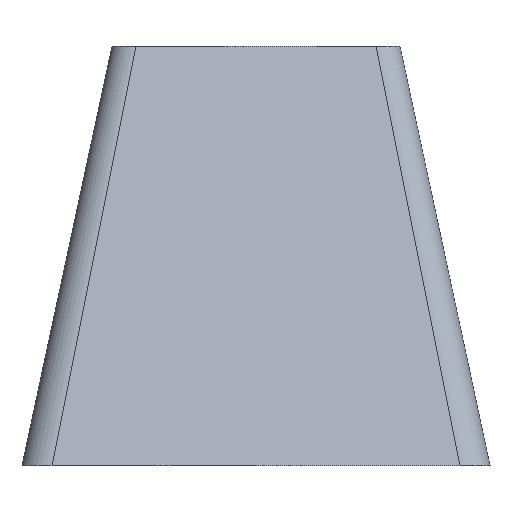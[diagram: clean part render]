
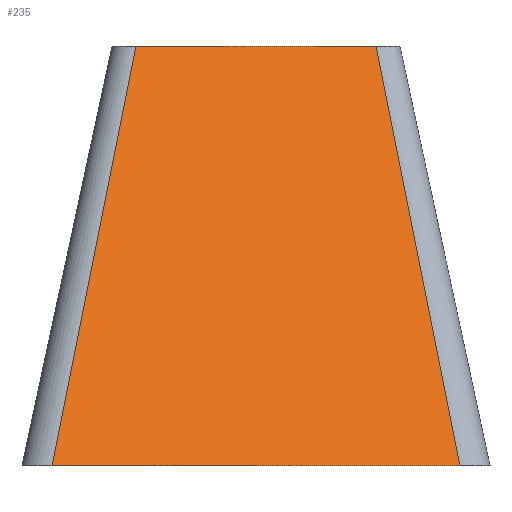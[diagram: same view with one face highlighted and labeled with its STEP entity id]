
A CAD part, front view. The second image highlights one B-rep face of the part: STEP entity #235.
In plain terms, the highlighted free-form (B-spline) face has degree [1, 1] with [2, 2] control points.
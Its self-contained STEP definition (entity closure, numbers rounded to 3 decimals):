
#44 = PLANE('',#45);
#45 = AXIS2_PLACEMENT_3D('',#46,#47,#48);
#46 = CARTESIAN_POINT('',(21.6,-52.,-22.));
#47 = DIRECTION('',(0.,0.,1.));
#48 = DIRECTION('',(1.,0.,0.));
#71 = B_SPLINE_SURFACE_WITH_KNOTS('',7,1,(
    (#72,#73)
    ,(#74,#75)
    ,(#76,#77)
    ,(#78,#79)
    ,(#80,#81)
    ,(#82,#83)
    ,(#84,#85)
    ,(#86,#87
    )),.UNSPECIFIED.,.F.,.F.,.F.,(8,8),(2,2),(3.142,
    4.712),(0.,1.),.PIECEWISE_BEZIER_KNOTS.);
#72 = CARTESIAN_POINT('',(21.1,-56.,-22.));
#73 = CARTESIAN_POINT('',(22.6,-52.3,-15.01));
#74 = CARTESIAN_POINT('',(21.1,-56.112,-22.));
#75 = CARTESIAN_POINT('',(22.6,-52.39,-15.01));
#76 = CARTESIAN_POINT('',(21.129,-56.224,-22.));
#77 = CARTESIAN_POINT('',(22.623,-52.48,-15.01));
#78 = CARTESIAN_POINT('',(21.188,-56.327,
    -22.));
#79 = CARTESIAN_POINT('',(22.67,-52.562,
    -15.01));
#80 = CARTESIAN_POINT('',(21.273,-56.412,-22.));
#81 = CARTESIAN_POINT('',(22.738,-52.63,-15.01));
#82 = CARTESIAN_POINT('',(21.376,-56.471,
    -22.));
#83 = CARTESIAN_POINT('',(22.82,-52.677,-15.01));
#84 = CARTESIAN_POINT('',(21.488,-56.5,-22.));
#85 = CARTESIAN_POINT('',(22.91,-52.7,-15.01));
#86 = CARTESIAN_POINT('',(21.6,-56.5,-22.));
#87 = CARTESIAN_POINT('',(23.,-52.7,-15.01));
#110 = PLANE('',#111);
#111 = AXIS2_PLACEMENT_3D('',#112,#113,#114);
#112 = CARTESIAN_POINT('',(23.,-52.3,-15.01));
#113 = DIRECTION('',(0.,0.,1.));
#114 = DIRECTION('',(1.,0.,0.));
#163 = VERTEX_POINT('',#164);
#164 = CARTESIAN_POINT('',(21.6,-56.5,-22.));
#186 = EDGE_CURVE('',#163,#187,#189,.T.);
#187 = VERTEX_POINT('',#188);
#188 = CARTESIAN_POINT('',(23.,-52.7,-15.01));
#189 = SURFACE_CURVE('',#190,(#193,#200),.PCURVE_S1.);
#190 = B_SPLINE_CURVE_WITH_KNOTS('',1,(#191,#192),.UNSPECIFIED.,.F.,.F.,
  (2,2),(0.,1.),.PIECEWISE_BEZIER_KNOTS.);
#191 = CARTESIAN_POINT('',(21.6,-56.5,-22.));
#192 = CARTESIAN_POINT('',(23.,-52.7,-15.01));
#193 = PCURVE('',#71,#194);
#194 = DEFINITIONAL_REPRESENTATION('',(#195),#199);
#195 = LINE('',#196,#197);
#196 = CARTESIAN_POINT('',(4.712,0.));
#197 = VECTOR('',#198,1.);
#198 = DIRECTION('',(0.,1.));
#199 = ( GEOMETRIC_REPRESENTATION_CONTEXT(2) 
PARAMETRIC_REPRESENTATION_CONTEXT() REPRESENTATION_CONTEXT('2D SPACE',''
  ) );
#200 = PCURVE('',#201,#206);
#201 = B_SPLINE_SURFACE_WITH_KNOTS('',1,1,(
    (#202,#203)
    ,(#204,#205
    )),.UNSPECIFIED.,.F.,.F.,.F.,(2,2),(2,2),(-3.4,3.4),(0.,1.),
  .PIECEWISE_BEZIER_KNOTS.);
#202 = CARTESIAN_POINT('',(21.6,-56.5,-22.));
#203 = CARTESIAN_POINT('',(23.,-52.7,-15.01));
#204 = CARTESIAN_POINT('',(28.4,-56.5,-22.));
#205 = CARTESIAN_POINT('',(27.,-52.7,-15.01));
#206 = DEFINITIONAL_REPRESENTATION('',(#207),#211);
#207 = LINE('',#208,#209);
#208 = CARTESIAN_POINT('',(-3.4,0.));
#209 = VECTOR('',#210,1.);
#210 = DIRECTION('',(0.,1.));
#211 = ( GEOMETRIC_REPRESENTATION_CONTEXT(2) 
PARAMETRIC_REPRESENTATION_CONTEXT() REPRESENTATION_CONTEXT('2D SPACE',''
  ) );
#235 = ADVANCED_FACE('',(#236),#201,.T.);
#236 = FACE_BOUND('',#237,.T.);
#237 = EDGE_LOOP('',(#238,#261,#300,#320));
#238 = ORIENTED_EDGE('',*,*,#239,.T.);
#239 = EDGE_CURVE('',#163,#240,#242,.T.);
#240 = VERTEX_POINT('',#241);
#241 = CARTESIAN_POINT('',(28.4,-56.5,-22.));
#242 = SURFACE_CURVE('',#243,(#247,#254),.PCURVE_S1.);
#243 = LINE('',#244,#245);
#244 = CARTESIAN_POINT('',(25.,-56.5,-22.));
#245 = VECTOR('',#246,1.);
#246 = DIRECTION('',(1.,0.,0.));
#247 = PCURVE('',#201,#248);
#248 = DEFINITIONAL_REPRESENTATION('',(#249),#253);
#249 = LINE('',#250,#251);
#250 = CARTESIAN_POINT('',(0.,0.));
#251 = VECTOR('',#252,1.);
#252 = DIRECTION('',(1.,0.));
#253 = ( GEOMETRIC_REPRESENTATION_CONTEXT(2) 
PARAMETRIC_REPRESENTATION_CONTEXT() REPRESENTATION_CONTEXT('2D SPACE',''
  ) );
#254 = PCURVE('',#44,#255);
#255 = DEFINITIONAL_REPRESENTATION('',(#256),#260);
#256 = LINE('',#257,#258);
#257 = CARTESIAN_POINT('',(3.4,-4.5));
#258 = VECTOR('',#259,1.);
#259 = DIRECTION('',(1.,0.));
#260 = ( GEOMETRIC_REPRESENTATION_CONTEXT(2) 
PARAMETRIC_REPRESENTATION_CONTEXT() REPRESENTATION_CONTEXT('2D SPACE',''
  ) );
#261 = ORIENTED_EDGE('',*,*,#262,.T.);
#262 = EDGE_CURVE('',#240,#263,#265,.T.);
#263 = VERTEX_POINT('',#264);
#264 = CARTESIAN_POINT('',(27.,-52.7,-15.01));
#265 = SURFACE_CURVE('',#266,(#269,#276),.PCURVE_S1.);
#266 = B_SPLINE_CURVE_WITH_KNOTS('',1,(#267,#268),.UNSPECIFIED.,.F.,.F.,
  (2,2),(0.,1.),.PIECEWISE_BEZIER_KNOTS.);
#267 = CARTESIAN_POINT('',(28.4,-56.5,-22.));
#268 = CARTESIAN_POINT('',(27.,-52.7,-15.01));
#269 = PCURVE('',#201,#270);
#270 = DEFINITIONAL_REPRESENTATION('',(#271),#275);
#271 = LINE('',#272,#273);
#272 = CARTESIAN_POINT('',(3.4,0.));
#273 = VECTOR('',#274,1.);
#274 = DIRECTION('',(0.,1.));
#275 = ( GEOMETRIC_REPRESENTATION_CONTEXT(2) 
PARAMETRIC_REPRESENTATION_CONTEXT() REPRESENTATION_CONTEXT('2D SPACE',''
  ) );
#276 = PCURVE('',#277,#294);
#277 = B_SPLINE_SURFACE_WITH_KNOTS('',7,1,(
    (#278,#279)
    ,(#280,#281)
    ,(#282,#283)
    ,(#284,#285)
    ,(#286,#287)
    ,(#288,#289)
    ,(#290,#291)
    ,(#292,#293
    )),.UNSPECIFIED.,.F.,.F.,.F.,(8,8),(2,2),(4.712,
    6.283),(0.,1.),.PIECEWISE_BEZIER_KNOTS.);
#278 = CARTESIAN_POINT('',(28.4,-56.5,-22.));
#279 = CARTESIAN_POINT('',(27.,-52.7,-15.01));
#280 = CARTESIAN_POINT('',(28.512,-56.5,-22.));
#281 = CARTESIAN_POINT('',(27.09,-52.7,-15.01));
#282 = CARTESIAN_POINT('',(28.624,-56.471,-22.));
#283 = CARTESIAN_POINT('',(27.18,-52.677,-15.01));
#284 = CARTESIAN_POINT('',(28.727,-56.412,-22.));
#285 = CARTESIAN_POINT('',(27.262,-52.63,-15.01));
#286 = CARTESIAN_POINT('',(28.812,-56.327,-22.));
#287 = CARTESIAN_POINT('',(27.33,-52.562,-15.01));
#288 = CARTESIAN_POINT('',(28.871,-56.224,-22.));
#289 = CARTESIAN_POINT('',(27.377,-52.48,-15.01));
#290 = CARTESIAN_POINT('',(28.9,-56.112,-22.));
#291 = CARTESIAN_POINT('',(27.4,-52.39,-15.01));
#292 = CARTESIAN_POINT('',(28.9,-56.,-22.));
#293 = CARTESIAN_POINT('',(27.4,-52.3,-15.01));
#294 = DEFINITIONAL_REPRESENTATION('',(#295),#299);
#295 = LINE('',#296,#297);
#296 = CARTESIAN_POINT('',(4.712,0.));
#297 = VECTOR('',#298,1.);
#298 = DIRECTION('',(0.,1.));
#299 = ( GEOMETRIC_REPRESENTATION_CONTEXT(2) 
PARAMETRIC_REPRESENTATION_CONTEXT() REPRESENTATION_CONTEXT('2D SPACE',''
  ) );
#300 = ORIENTED_EDGE('',*,*,#301,.F.);
#301 = EDGE_CURVE('',#187,#263,#302,.T.);
#302 = SURFACE_CURVE('',#303,(#307,#313),.PCURVE_S1.);
#303 = LINE('',#304,#305);
#304 = CARTESIAN_POINT('',(25.,-52.7,-15.01));
#305 = VECTOR('',#306,1.);
#306 = DIRECTION('',(1.,0.,0.));
#307 = PCURVE('',#201,#308);
#308 = DEFINITIONAL_REPRESENTATION('',(#309),#312);
#309 = B_SPLINE_CURVE_WITH_KNOTS('',1,(#310,#311),.UNSPECIFIED.,.F.,.F.,
  (2,2),(-2.,2.),.PIECEWISE_BEZIER_KNOTS.);
#310 = CARTESIAN_POINT('',(-3.4,1.));
#311 = CARTESIAN_POINT('',(3.4,1.));
#312 = ( GEOMETRIC_REPRESENTATION_CONTEXT(2) 
PARAMETRIC_REPRESENTATION_CONTEXT() REPRESENTATION_CONTEXT('2D SPACE',''
  ) );
#313 = PCURVE('',#110,#314);
#314 = DEFINITIONAL_REPRESENTATION('',(#315),#319);
#315 = LINE('',#316,#317);
#316 = CARTESIAN_POINT('',(2.,-0.4));
#317 = VECTOR('',#318,1.);
#318 = DIRECTION('',(1.,0.));
#319 = ( GEOMETRIC_REPRESENTATION_CONTEXT(2) 
PARAMETRIC_REPRESENTATION_CONTEXT() REPRESENTATION_CONTEXT('2D SPACE',''
  ) );
#320 = ORIENTED_EDGE('',*,*,#186,.F.);
